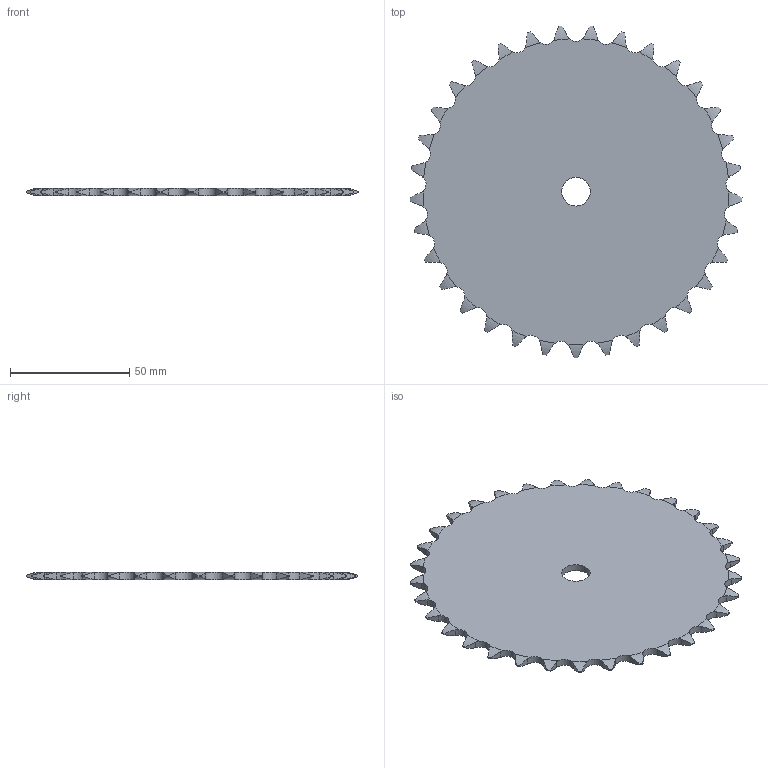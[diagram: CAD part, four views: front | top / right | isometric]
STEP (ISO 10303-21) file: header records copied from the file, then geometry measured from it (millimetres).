
FILE_DESCRIPTION((''),'2;1');
FILE_NAME('500-231-0033_PRT','2021-02-12T',('Brieden'),('Brieden'),'PRO/ENGINEER BY PARAMETRIC TECHNOLOGY CORPORATION, 2010160','PRO/ENGINEER BY PARAMETRIC TECHNOLOGY CORPORATION, 2010160','');
FILE_SCHEMA(('AUTOMOTIVE_DESIGN { 1 0 10303 214 1 1 1 1 }'));
Length unit declared in the file: millimetre
Products named in the file (1): 500-231-0033_PRT
Bounding box: 139.08 x 138.92 x 3 mm (x, y, z)
Volume: 39684.2 mm3; surface area: 28399.9 mm2
Topology: 1 solids, 1 shells, 202 faces, 600 edges, 400 vertices
Faces by surface type: cylinder 134, torus 66, plane 2
Entity records: 9822 total; most frequent: CARTESIAN_POINT 2855, ORIENTED_EDGE 1200, DIRECTION 942, PRESENTATION_STYLE_ASSIGNMENT 601, STYLED_ITEM 601, CURVE_STYLE 600, EDGE_CURVE 600, AXIS2_PLACEMENT_3D 404
